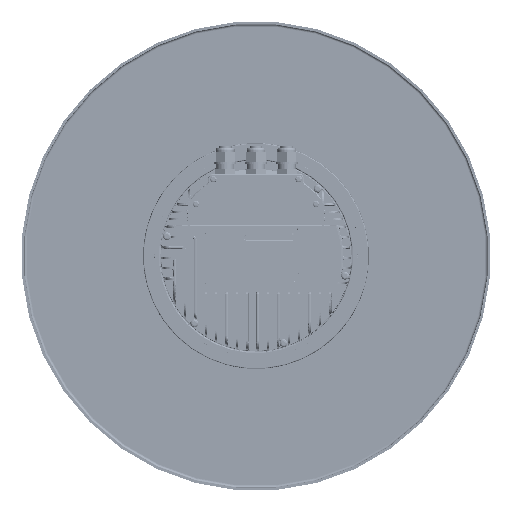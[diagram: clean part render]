
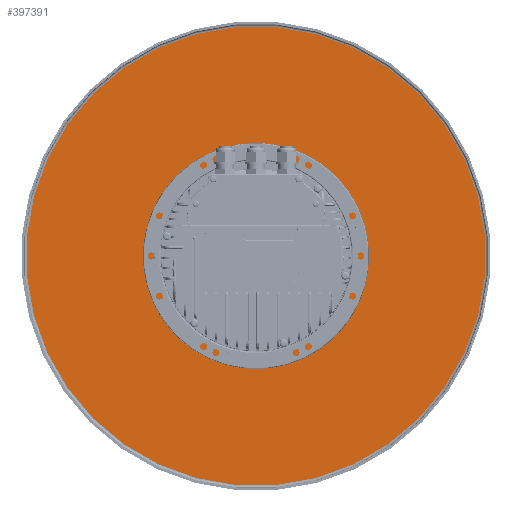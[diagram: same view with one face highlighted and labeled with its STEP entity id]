
A CAD part, front view. The second image highlights one B-rep face of the part: STEP entity #397391.
In plain terms, the highlighted planar face has unit normal (0, -1, 0).
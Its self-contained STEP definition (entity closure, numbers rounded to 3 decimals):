
#396829=CARTESIAN_POINT('',(0.,7.,0.));
#396830=DIRECTION('',(0.,1.,0.));
#396831=DIRECTION('',(0.,0.,-1.));
#396832=AXIS2_PLACEMENT_3D('',#396829,#396830,#396831);
#396834=CARTESIAN_POINT('',(0.,7.,0.));
#396835=DIRECTION('',(0.,-1.,0.));
#396836=DIRECTION('',(0.,0.,-1.));
#396837=AXIS2_PLACEMENT_3D('',#396834,#396835,#396836);
#396839=CARTESIAN_POINT('',(0.,7.,-110.));
#396840=DIRECTION('',(0.,1.,0.));
#396841=DIRECTION('',(1.,0.,0.));
#396842=AXIS2_PLACEMENT_3D('',#396839,#396840,#396841);
#396844=CARTESIAN_POINT('',(0.,7.,-110.));
#396845=DIRECTION('',(0.,1.,0.));
#396846=DIRECTION('',(-1.,0.,0.));
#396847=AXIS2_PLACEMENT_3D('',#396844,#396845,#396846);
#396849=CARTESIAN_POINT('',(-95.263,7.,-55.));
#396850=DIRECTION('',(0.,1.,0.));
#396851=DIRECTION('',(1.,0.,0.));
#396852=AXIS2_PLACEMENT_3D('',#396849,#396850,#396851);
#396854=CARTESIAN_POINT('',(-95.263,7.,-55.));
#396855=DIRECTION('',(0.,1.,0.));
#396856=DIRECTION('',(-1.,0.,0.));
#396857=AXIS2_PLACEMENT_3D('',#396854,#396855,#396856);
#396859=CARTESIAN_POINT('',(-55.,7.,-95.263));
#396860=DIRECTION('',(0.,1.,0.));
#396861=DIRECTION('',(1.,0.,0.));
#396862=AXIS2_PLACEMENT_3D('',#396859,#396860,#396861);
#396864=CARTESIAN_POINT('',(-55.,7.,-95.263));
#396865=DIRECTION('',(0.,1.,0.));
#396866=DIRECTION('',(-1.,0.,0.));
#396867=AXIS2_PLACEMENT_3D('',#396864,#396865,#396866);
#396869=CARTESIAN_POINT('',(95.263,7.,55.));
#396870=DIRECTION('',(0.,1.,0.));
#396871=DIRECTION('',(-0.5,0.,0.866));
#396872=AXIS2_PLACEMENT_3D('',#396869,#396870,#396871);
#396874=CARTESIAN_POINT('',(95.263,7.,55.));
#396875=DIRECTION('',(0.,1.,0.));
#396876=DIRECTION('',(0.5,0.,-0.866));
#396877=AXIS2_PLACEMENT_3D('',#396874,#396875,#396876);
#396879=CARTESIAN_POINT('',(95.263,7.,-55.));
#396880=DIRECTION('',(0.,1.,0.));
#396881=DIRECTION('',(-0.5,0.,0.866));
#396882=AXIS2_PLACEMENT_3D('',#396879,#396880,#396881);
#396884=CARTESIAN_POINT('',(95.263,7.,-55.));
#396885=DIRECTION('',(0.,1.,0.));
#396886=DIRECTION('',(0.5,0.,-0.866));
#396887=AXIS2_PLACEMENT_3D('',#396884,#396885,#396886);
#396889=CARTESIAN_POINT('',(110.,7.,0.));
#396890=DIRECTION('',(0.,1.,0.));
#396891=DIRECTION('',(-0.5,0.,0.866));
#396892=AXIS2_PLACEMENT_3D('',#396889,#396890,#396891);
#396894=CARTESIAN_POINT('',(110.,7.,0.));
#396895=DIRECTION('',(0.,1.,0.));
#396896=DIRECTION('',(0.5,0.,-0.866));
#396897=AXIS2_PLACEMENT_3D('',#396894,#396895,#396896);
#396899=CARTESIAN_POINT('',(-95.263,7.,55.));
#396900=DIRECTION('',(0.,1.,0.));
#396901=DIRECTION('',(-0.5,0.,-0.866));
#396902=AXIS2_PLACEMENT_3D('',#396899,#396900,#396901);
#396904=CARTESIAN_POINT('',(-95.263,7.,55.));
#396905=DIRECTION('',(0.,1.,0.));
#396906=DIRECTION('',(0.5,0.,0.866));
#396907=AXIS2_PLACEMENT_3D('',#396904,#396905,#396906);
#396909=CARTESIAN_POINT('',(0.,7.,110.));
#396910=DIRECTION('',(0.,1.,0.));
#396911=DIRECTION('',(-0.5,0.,-0.866));
#396912=AXIS2_PLACEMENT_3D('',#396909,#396910,#396911);
#396914=CARTESIAN_POINT('',(0.,7.,110.));
#396915=DIRECTION('',(0.,1.,0.));
#396916=DIRECTION('',(0.5,0.,0.866));
#396917=AXIS2_PLACEMENT_3D('',#396914,#396915,#396916);
#396919=CARTESIAN_POINT('',(-55.,7.,95.263));
#396920=DIRECTION('',(0.,1.,0.));
#396921=DIRECTION('',(-0.5,0.,-0.866));
#396922=AXIS2_PLACEMENT_3D('',#396919,#396920,#396921);
#396924=CARTESIAN_POINT('',(-55.,7.,95.263));
#396925=DIRECTION('',(0.,1.,0.));
#396926=DIRECTION('',(0.5,0.,0.866));
#396927=AXIS2_PLACEMENT_3D('',#396924,#396925,#396926);
#396929=CARTESIAN_POINT('',(0.,7.,0.));
#396930=DIRECTION('',(0.,-1.,0.));
#396931=DIRECTION('',(0.,0.,-1.));
#396932=AXIS2_PLACEMENT_3D('',#396929,#396930,#396931);
#396944=CARTESIAN_POINT('',(0.,7.,0.));
#396945=DIRECTION('',(0.,1.,0.));
#396946=DIRECTION('',(0.,0.,-1.));
#396947=AXIS2_PLACEMENT_3D('',#396944,#396945,#396946);
#397202=CARTESIAN_POINT('',(0.,7.,-100.05));
#397204=VERTEX_POINT('',#397202);
#397205=CARTESIAN_POINT('',(0.,7.,-277.));
#397207=VERTEX_POINT('',#397205);
#397218=CARTESIAN_POINT('',(0.,7.,100.05));
#397220=VERTEX_POINT('',#397218);
#397221=CARTESIAN_POINT('',(0.,7.,277.));
#397223=VERTEX_POINT('',#397221);
#397233=CARTESIAN_POINT('',(4.25,7.,-110.));
#397234=CARTESIAN_POINT('',(-4.25,7.,-110.));
#397235=VERTEX_POINT('',#397233);
#397236=VERTEX_POINT('',#397234);
#397237=CARTESIAN_POINT('',(-91.013,7.,-55.));
#397238=CARTESIAN_POINT('',(-99.513,7.,-55.));
#397239=VERTEX_POINT('',#397237);
#397240=VERTEX_POINT('',#397238);
#397241=CARTESIAN_POINT('',(-52.,7.,-95.263));
#397242=CARTESIAN_POINT('',(-58.,7.,-95.263));
#397243=VERTEX_POINT('',#397241);
#397244=VERTEX_POINT('',#397242);
#397257=CARTESIAN_POINT('',(93.138,7.,58.681));
#397258=CARTESIAN_POINT('',(97.388,7.,51.319));
#397259=VERTEX_POINT('',#397257);
#397260=VERTEX_POINT('',#397258);
#397261=CARTESIAN_POINT('',(93.138,7.,-51.319));
#397262=CARTESIAN_POINT('',(97.388,7.,-58.681));
#397263=VERTEX_POINT('',#397261);
#397264=VERTEX_POINT('',#397262);
#397265=CARTESIAN_POINT('',(108.5,7.,2.598));
#397266=CARTESIAN_POINT('',(111.5,7.,-2.598));
#397267=VERTEX_POINT('',#397265);
#397268=VERTEX_POINT('',#397266);
#397281=CARTESIAN_POINT('',(-97.388,7.,51.319));
#397282=CARTESIAN_POINT('',(-93.138,7.,58.681));
#397283=VERTEX_POINT('',#397281);
#397284=VERTEX_POINT('',#397282);
#397285=CARTESIAN_POINT('',(-2.125,7.,106.319));
#397286=CARTESIAN_POINT('',(2.125,7.,113.681));
#397287=VERTEX_POINT('',#397285);
#397288=VERTEX_POINT('',#397286);
#397289=CARTESIAN_POINT('',(-56.5,7.,92.665));
#397290=CARTESIAN_POINT('',(-53.5,7.,97.861));
#397291=VERTEX_POINT('',#397289);
#397292=VERTEX_POINT('',#397290);
#397321=CARTESIAN_POINT('',(0.,7.,0.));
#397322=DIRECTION('',(0.,-1.,0.));
#397323=DIRECTION('',(0.,0.,1.));
#397324=AXIS2_PLACEMENT_3D('',#397321,#397322,#397323);
#397325=PLANE('',#397324);
#397327=ORIENTED_EDGE('',*,*,#397326,.F.);
#397329=ORIENTED_EDGE('',*,*,#397328,.T.);
#397330=EDGE_LOOP('',(#397327,#397329));
#397331=FACE_OUTER_BOUND('',#397330,.F.);
#397333=ORIENTED_EDGE('',*,*,#397332,.F.);
#397335=ORIENTED_EDGE('',*,*,#397334,.T.);
#397336=EDGE_LOOP('',(#397333,#397335));
#397337=FACE_BOUND('',#397336,.F.);
#397339=ORIENTED_EDGE('',*,*,#397338,.F.);
#397341=ORIENTED_EDGE('',*,*,#397340,.F.);
#397342=EDGE_LOOP('',(#397339,#397341));
#397343=FACE_BOUND('',#397342,.F.);
#397345=ORIENTED_EDGE('',*,*,#397344,.F.);
#397346=ORIENTED_EDGE('',*,*,#397310,.F.);
#397347=EDGE_LOOP('',(#397345,#397346));
#397348=FACE_BOUND('',#397347,.F.);
#397350=ORIENTED_EDGE('',*,*,#397349,.F.);
#397352=ORIENTED_EDGE('',*,*,#397351,.F.);
#397353=EDGE_LOOP('',(#397350,#397352));
#397354=FACE_BOUND('',#397353,.F.);
#397356=ORIENTED_EDGE('',*,*,#397355,.F.);
#397358=ORIENTED_EDGE('',*,*,#397357,.F.);
#397359=EDGE_LOOP('',(#397356,#397358));
#397360=FACE_BOUND('',#397359,.F.);
#397362=ORIENTED_EDGE('',*,*,#397361,.F.);
#397364=ORIENTED_EDGE('',*,*,#397363,.F.);
#397365=EDGE_LOOP('',(#397362,#397364));
#397366=FACE_BOUND('',#397365,.F.);
#397368=ORIENTED_EDGE('',*,*,#397367,.F.);
#397370=ORIENTED_EDGE('',*,*,#397369,.F.);
#397371=EDGE_LOOP('',(#397368,#397370));
#397372=FACE_BOUND('',#397371,.F.);
#397374=ORIENTED_EDGE('',*,*,#397373,.F.);
#397376=ORIENTED_EDGE('',*,*,#397375,.F.);
#397377=EDGE_LOOP('',(#397374,#397376));
#397378=FACE_BOUND('',#397377,.F.);
#397380=ORIENTED_EDGE('',*,*,#397379,.F.);
#397382=ORIENTED_EDGE('',*,*,#397381,.F.);
#397383=EDGE_LOOP('',(#397380,#397382));
#397384=FACE_BOUND('',#397383,.F.);
#397386=ORIENTED_EDGE('',*,*,#397385,.F.);
#397388=ORIENTED_EDGE('',*,*,#397387,.F.);
#397389=EDGE_LOOP('',(#397386,#397388));
#397390=FACE_BOUND('',#397389,.F.);
#396833=CIRCLE('',#396832,100.05);
#396838=CIRCLE('',#396837,100.05);
#396843=CIRCLE('',#396842,4.25);
#396848=CIRCLE('',#396847,4.25);
#396853=CIRCLE('',#396852,4.25);
#396858=CIRCLE('',#396857,4.25);
#396863=CIRCLE('',#396862,3.);
#396868=CIRCLE('',#396867,3.);
#396873=CIRCLE('',#396872,4.25);
#396878=CIRCLE('',#396877,4.25);
#396883=CIRCLE('',#396882,4.25);
#396888=CIRCLE('',#396887,4.25);
#396893=CIRCLE('',#396892,3.);
#396898=CIRCLE('',#396897,3.);
#396903=CIRCLE('',#396902,4.25);
#396908=CIRCLE('',#396907,4.25);
#396913=CIRCLE('',#396912,4.25);
#396918=CIRCLE('',#396917,4.25);
#396923=CIRCLE('',#396922,3.);
#396928=CIRCLE('',#396927,3.);
#396933=CIRCLE('',#396932,277.);
#396948=CIRCLE('',#396947,277.);
#397310=EDGE_CURVE('',#397240,#397239,#396858,.T.);
#397326=EDGE_CURVE('',#397207,#397223,#396933,.T.);
#397328=EDGE_CURVE('',#397207,#397223,#396948,.T.);
#397332=EDGE_CURVE('',#397204,#397220,#396833,.T.);
#397334=EDGE_CURVE('',#397204,#397220,#396838,.T.);
#397338=EDGE_CURVE('',#397235,#397236,#396843,.T.);
#397340=EDGE_CURVE('',#397236,#397235,#396848,.T.);
#397344=EDGE_CURVE('',#397239,#397240,#396853,.T.);
#397349=EDGE_CURVE('',#397243,#397244,#396863,.T.);
#397351=EDGE_CURVE('',#397244,#397243,#396868,.T.);
#397355=EDGE_CURVE('',#397259,#397260,#396873,.T.);
#397357=EDGE_CURVE('',#397260,#397259,#396878,.T.);
#397361=EDGE_CURVE('',#397263,#397264,#396883,.T.);
#397363=EDGE_CURVE('',#397264,#397263,#396888,.T.);
#397367=EDGE_CURVE('',#397267,#397268,#396893,.T.);
#397369=EDGE_CURVE('',#397268,#397267,#396898,.T.);
#397373=EDGE_CURVE('',#397283,#397284,#396903,.T.);
#397375=EDGE_CURVE('',#397284,#397283,#396908,.T.);
#397379=EDGE_CURVE('',#397287,#397288,#396913,.T.);
#397381=EDGE_CURVE('',#397288,#397287,#396918,.T.);
#397385=EDGE_CURVE('',#397291,#397292,#396923,.T.);
#397387=EDGE_CURVE('',#397292,#397291,#396928,.T.);
#397391=ADVANCED_FACE('',(#397331,#397337,#397343,#397348,#397354,#397360,
#397366,#397372,#397378,#397384,#397390),#397325,.T.);
